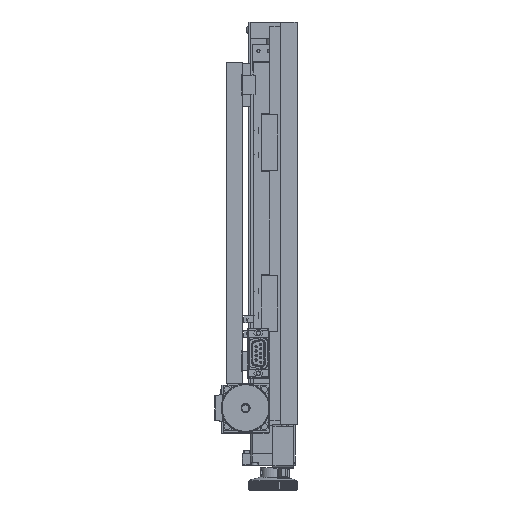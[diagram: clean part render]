
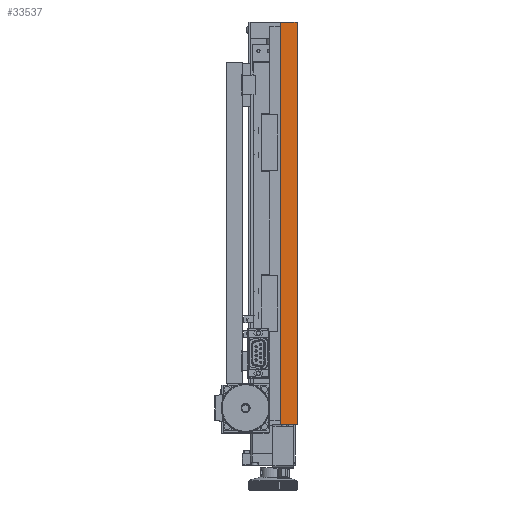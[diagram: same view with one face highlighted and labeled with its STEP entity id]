
A CAD part, left-side view. The second image highlights one B-rep face of the part: STEP entity #33537.
In plain terms, the highlighted planar face has unit normal (-1, 0, 0).
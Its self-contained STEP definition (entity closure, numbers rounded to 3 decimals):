
#7595 = FACE_OUTER_BOUND ( 'NONE', #12054, .T. ) ;
#9003 = CARTESIAN_POINT ( 'NONE',  ( -174.203, -27.717, 125. ) ) ;
#9010 = PLANE ( 'NONE',  #14728 ) ;
#9012 = DIRECTION ( 'NONE',  ( 1., 0., 0. ) ) ;
#9013 = DIRECTION ( 'NONE',  ( 0., 0., -1. ) ) ;
#10830 = ORIENTED_EDGE ( 'NONE', *, *, #39972, .T. ) ;
#10831 = ORIENTED_EDGE ( 'NONE', *, *, #39971, .F. ) ;
#10832 = ORIENTED_EDGE ( 'NONE', *, *, #39975, .F. ) ;
#10833 = ORIENTED_EDGE ( 'NONE', *, *, #40029, .T. ) ;
#12054 = EDGE_LOOP ( 'NONE', ( #10830, #10831, #10832, #10833 ) ) ;
#14728 = AXIS2_PLACEMENT_3D ( 'NONE', #9003, #9012, #9013 ) ;
#26874 = CARTESIAN_POINT ( 'NONE',  ( -174.203, -27.717, -125. ) ) ;
#26875 = CARTESIAN_POINT ( 'NONE',  ( -174.203, -27.717, 125. ) ) ;
#26889 = CARTESIAN_POINT ( 'NONE',  ( -174.203, -17.717, -125. ) ) ;
#26892 = CARTESIAN_POINT ( 'NONE',  ( -174.203, -17.717, 125. ) ) ;
#27036 = CARTESIAN_POINT ( 'NONE',  ( -174.203, -27.717, 125. ) ) ;
#27037 = DIRECTION ( 'NONE',  ( 0., 0., -1. ) ) ;
#27038 = CARTESIAN_POINT ( 'NONE',  ( -174.203, -27.717, -125. ) ) ;
#27040 = DIRECTION ( 'NONE',  ( 0., -1., 0. ) ) ;
#27043 = CARTESIAN_POINT ( 'NONE',  ( -174.203, -27.717, 125. ) ) ;
#27044 = DIRECTION ( 'NONE',  ( 0., -1., 0. ) ) ;
#29364 = LINE ( 'NONE', #27036, #29367 ) ;
#29366 = LINE ( 'NONE', #27038, #29369 ) ;
#29367 = VECTOR ( 'NONE', #27037, 1000. ) ;
#29369 = VECTOR ( 'NONE', #27040, 1000. ) ;
#29372 = LINE ( 'NONE', #27043, #29375 ) ;
#29375 = VECTOR ( 'NONE', #27044, 1000. ) ;
#29454 = LINE ( 'NONE', #30868, #29457 ) ;
#29457 = VECTOR ( 'NONE', #30870, 1000. ) ;
#30868 = CARTESIAN_POINT ( 'NONE',  ( -174.203, -17.717, 125. ) ) ;
#30870 = DIRECTION ( 'NONE',  ( 0., 0., -1. ) ) ;
#33537 = ADVANCED_FACE ( 'NONE', ( #7595 ), #9010, .F. ) ;
#39825 = VERTEX_POINT ( 'NONE', #26874 ) ;
#39827 = VERTEX_POINT ( 'NONE', #26875 ) ;
#39842 = VERTEX_POINT ( 'NONE', #26889 ) ;
#39845 = VERTEX_POINT ( 'NONE', #26892 ) ;
#39971 = EDGE_CURVE ( 'NONE', #39827, #39825, #29364, .T. ) ;
#39972 = EDGE_CURVE ( 'NONE', #39842, #39825, #29366, .T. ) ;
#39975 = EDGE_CURVE ( 'NONE', #39845, #39827, #29372, .T. ) ;
#40029 = EDGE_CURVE ( 'NONE', #39845, #39842, #29454, .T. ) ;
